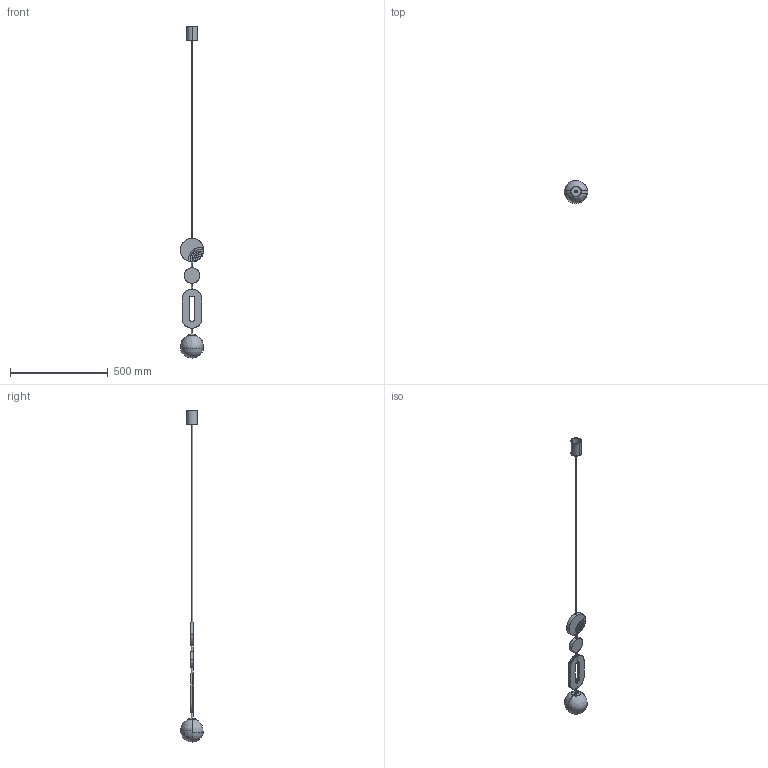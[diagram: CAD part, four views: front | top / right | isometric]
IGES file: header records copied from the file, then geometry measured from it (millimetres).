
Start section: SolidWorks IGES file using analytic representation for surfaces
Global section: file name: C:\Users\anna.bielnik\Desktop\DROPS COLOR B\NL2500001402.IGS; native system: SolidWorks 2024; preprocessor: SolidWorks 2024; author: anna.bielnik; date: 251201.114215; units: millimetre
Bounding box: 120 x 119.12 x 1700 mm (x, y, z)
Surface area: 264060.7 mm2 (no closed solid volume)
Topology: 0 solids, 0 shells, 138 faces, 3180 edges, 3177 vertices
Faces by surface type: bspline 72, revolution 66
